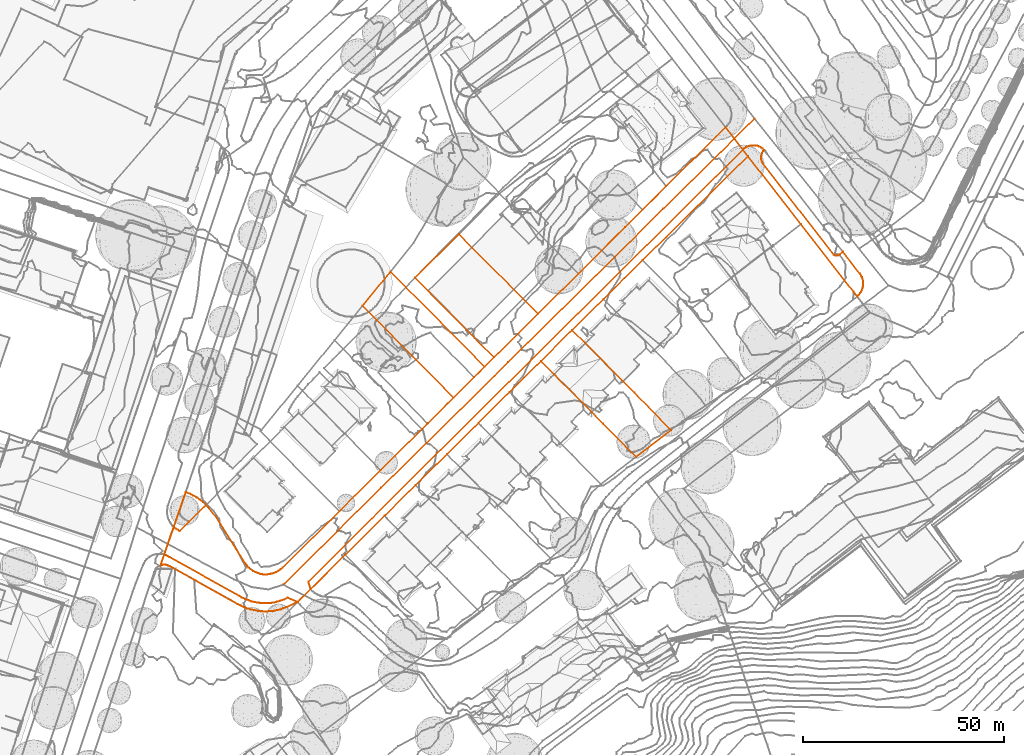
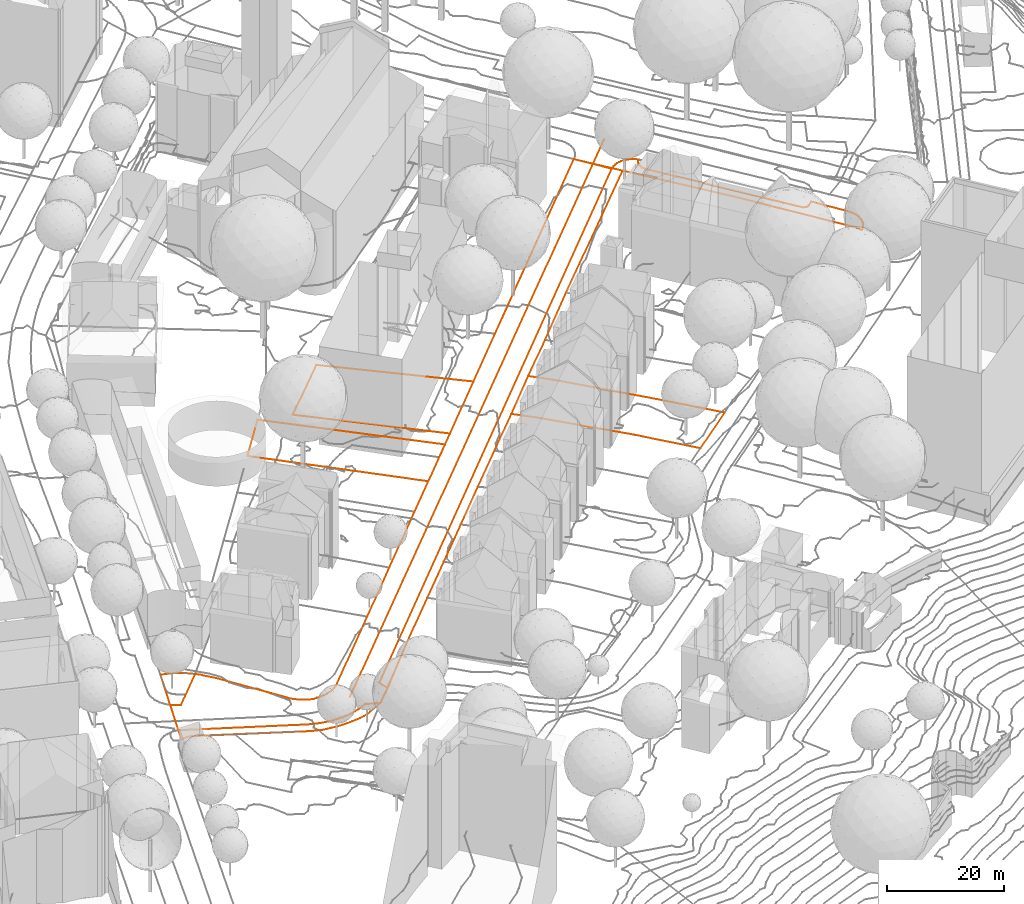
# Not in any storey, part 101 of 494: 7 proxies.
"""IFC2X3 model written with IfcOpenShell, lengths in metres."""

from ifc_helpers import new_model, entity, si_unit, frame, origin_with_axes, place, context, subcontext, project, element, save


model = new_model("IFC2X3")

# Units and contexts
model_context = context("Model", 3, precision=1e-05, world=origin_with_axes())
body_context = subcontext(model_context, "Body", "Model", "MODEL_VIEW")
ifc_project = project(units=[si_unit("AREAUNIT", "SQUARE_METRE"), si_unit("LENGTHUNIT", "METRE")], contexts=[model_context])

# Proxies
proxy_1_placement = place(None, frame((93.0437320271, 99.7587401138, 531.194), z_axis=(0.0, 0.0, 1.0), x_axis=(1.0, 0.0, 0.0)))
element("IfcBuildingElementProxy", 1, at=proxy_1_placement, Name="Road 52", ObjectType="NOTDEFINED", context=body_context, shape_type="GeometricCurveSet", body=[
    entity("IfcGeometricCurveSet", [entity("IfcPolyline", [entity("IfcCartesianPoint", [0.0, 0.0, 0.0]), entity("IfcCartesianPoint", [24.4419999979, 24.1649992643, 1.104]), entity("IfcCartesianPoint", [56.0439999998, 55.4119983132, 2.53]), entity("IfcCartesianPoint", [94.5870000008, 93.5209971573, 4.271]), entity("IfcCartesianPoint", [117.3289999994, 116.0069964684, 5.297])])]),
])
proxy_2_placement = place(None, frame((99.3697320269, 100.6137160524, 531.4787318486), z_axis=(0.0, 0.0, 1.0), x_axis=(1.0, 0.0, 0.0)))
element("IfcBuildingElementProxy", 2, at=proxy_2_placement, Name="Roads Outline 13", ObjectType="NOTDEFINED", context=body_context, shape_type="GeometricCurveSet", body=[
    entity("IfcGeometricCurveSet", [entity("IfcPolyline", [entity("IfcCartesianPoint", [0.0, 0.0, 0.0]), entity("IfcCartesianPoint", [108.0809999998, 107.4170000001, 4.6570757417]), entity("IfcCartesianPoint", [108.4329999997, 107.7180000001, 4.6397846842]), entity("IfcCartesianPoint", [108.8199999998, 107.973, 4.6427074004]), entity("IfcCartesianPoint", [109.2359999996, 108.1770000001, 4.67960529]), entity("IfcCartesianPoint", [109.6739999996, 108.327, 4.7157648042]), entity("IfcCartesianPoint", [110.1269999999, 108.422, 4.741091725]), entity("IfcCartesianPoint", [110.5889999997, 108.459, 4.7630005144]), entity("IfcCartesianPoint", [111.0999999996, 108.433, 4.7788742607]), entity("IfcCartesianPoint", [111.602, 108.338, 4.786806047]), entity("IfcCartesianPoint", [112.0859999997, 108.1740000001, 4.8015026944]), entity("IfcCartesianPoint", [112.5429999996, 107.9450000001, 4.8260475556]), entity("IfcCartesianPoint", [112.9649999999, 107.655, 4.8335563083]), entity("IfcCartesianPoint", [113.3419999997, 107.3100000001, 4.816792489]), entity("IfcCartesianPoint", [113.0689999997, 106.9710000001, 4.8299718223]), entity("IfcCartesianPoint", [112.855, 106.5919999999, 4.8374688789]), entity("IfcCartesianPoint", [112.7049999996, 106.183, 4.830174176]), entity("IfcCartesianPoint", [112.6229999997, 105.7560000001, 4.8264425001]), entity("IfcCartesianPoint", [112.6099999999, 105.3760000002, 4.8286098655]), entity("IfcCartesianPoint", [112.6499999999, 104.997, 4.8320408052]), entity("IfcCartesianPoint", [112.7449999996, 104.629, 4.8476018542]), entity("IfcCartesianPoint", [112.8909999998, 104.277, 4.8660261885]), entity("IfcCartesianPoint", [113.085, 103.95, 4.8776557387]), entity("IfcCartesianPoint", [130.679, 81.2560000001, 4.5503751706]), entity("IfcCartesianPoint", [130.8939999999, 81.1040000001, 4.5512587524]), entity("IfcCartesianPoint", [131.142, 81.014, 4.5520183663]), entity("IfcCartesianPoint", [131.4039999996, 80.9910000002, 4.5493327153]), entity("IfcCartesianPoint", [131.6439999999, 81.0330000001, 4.5453489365]), entity("IfcCartesianPoint", [131.8659999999, 81.1310000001, 4.5367992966]), entity("IfcCartesianPoint", [132.0579999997, 81.28, 4.5227718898]), entity("IfcCartesianPoint", [132.943, 82.0050000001, 4.4854799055]), entity("IfcCartesianPoint", [137.2059999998, 76.5, 4.2468710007]), entity("IfcCartesianPoint", [137.4789999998, 76.081, 4.2194894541]), entity("IfcCartesianPoint", [137.6999999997, 75.632, 4.1873046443]), entity("IfcCartesianPoint", [137.8639999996, 75.159, 4.1632237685]), entity("IfcCartesianPoint", [137.9689999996, 74.669, 4.1470024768]), entity("IfcCartesianPoint", [138.014, 74.1710000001, 4.1303006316]), entity("IfcCartesianPoint", [137.9939999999, 73.639, 4.1134329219]), entity("IfcCartesianPoint", [137.9049999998, 73.1140000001, 4.0972265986]), entity("IfcCartesianPoint", [137.7489999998, 72.605, 4.0706635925]), entity("IfcCartesianPoint", [137.5269999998, 72.1200000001, 4.0462752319]), entity("IfcCartesianPoint", [137.2449999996, 71.669, 4.0096095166]), entity("IfcCartesianPoint", [136.906, 71.2580000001, 3.9671049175]), entity("IfcCartesianPoint", [136.517, 70.8940000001, 4.0019778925]), entity("IfcCartesianPoint", [135.6379999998, 72.023, 4.2745707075]), entity("IfcCartesianPoint", [122.4889999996, 88.9030000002, 4.7805796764]), entity("IfcCartesianPoint", [109.3089999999, 105.8230000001, 4.7918427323]), entity("IfcCartesianPoint", [83.1359999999, 79.8970000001, 4.1487742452]), entity("IfcCartesianPoint", [73.3969999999, 70.254, 3.4828260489]), entity("IfcCartesianPoint", [65.6269999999, 62.561, 3.3148640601]), entity("IfcCartesianPoint", [57.8279999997, 54.8390000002, 2.7996823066]), entity("IfcCartesianPoint", [50.048, 47.1370000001, 2.5008952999]), entity("IfcCartesianPoint", [42.2679999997, 39.4240000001, 2.2788693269]), entity("IfcCartesianPoint", [34.4489999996, 31.682, 1.8705209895]), entity("IfcCartesianPoint", [26.659, 23.98, 1.4808663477]), entity("IfcCartesianPoint", [18.9149999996, 16.307, 1.2562248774]), entity("IfcCartesianPoint", [9.1199999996, 6.6040000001, 0.7822688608]), entity("IfcCartesianPoint", [0.5439999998, -1.9669999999, -0.1117618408]), entity("IfcCartesianPoint", [0.0, 0.0, 0.0])])]),
])
proxy_3_placement = place(None, frame((63.4837320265, 107.2827160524, 530.0463564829), z_axis=(0.0, 0.0, 1.0), x_axis=(1.0, 0.0, 0.0)))
element("IfcBuildingElementProxy", 3, at=proxy_3_placement, Name="Roads Outline 32", ObjectType="NOTDEFINED", context=body_context, shape_type="GeometricCurveSet", body=[
    entity("IfcGeometricCurveSet", [entity("IfcPolyline", [entity("IfcCartesianPoint", [0.0, 0.0, 0.0]), entity("IfcCartesianPoint", [2.3800000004, 6.882, 0.3069742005]), entity("IfcCartesianPoint", [2.838, 6.4990000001, 0.3328323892]), entity("IfcCartesianPoint", [3.3360000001, 6.1700000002, 0.3478767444]), entity("IfcCartesianPoint", [3.8680000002, 5.899, 0.3725917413]), entity("IfcCartesianPoint", [6.139, 8.142, 0.4313811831]), entity("IfcCartesianPoint", [10.4020000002, 12.3530000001, 0.6635411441]), entity("IfcCartesianPoint", [10.9420000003, 11.7920000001, 0.6903280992]), entity("IfcCartesianPoint", [12.8910000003, 9.402, 0.720618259]), entity("IfcCartesianPoint", [20.199, -2.1879999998, 1.1318759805]), entity("IfcCartesianPoint", [20.5960000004, -2.7290000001, 1.0707921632]), entity("IfcCartesianPoint", [21.051, -3.2239999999, 1.1512467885]), entity("IfcCartesianPoint", [21.5560000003, -3.666, 1.1122666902]), entity("IfcCartesianPoint", [22.108, -4.0489999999, 1.1619861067]), entity("IfcCartesianPoint", [22.6980000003, -4.3689999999, 1.1762413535]), entity("IfcCartesianPoint", [23.3200000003, -4.6229999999, 1.0889049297]), entity("IfcCartesianPoint", [23.966, -4.8059999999, 1.1165507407]), entity("IfcCartesianPoint", [24.628, -4.9179999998, 1.1828566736]), entity("IfcCartesianPoint", [25.2960000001, -4.949, 1.2167361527]), entity("IfcCartesianPoint", [25.9640000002, -4.906, 1.242556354]), entity("IfcCartesianPoint", [26.6230000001, -4.79, 1.2619961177]), entity("IfcCartesianPoint", [27.2650000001, -4.6029999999, 1.2782874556]), entity("IfcCartesianPoint", [27.8830000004, -4.3469999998, 1.3095847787]), entity("IfcCartesianPoint", [28.469, -4.024, 1.3208884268]), entity("IfcCartesianPoint", [29.0160000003, -3.639, 1.3365282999]), entity("IfcCartesianPoint", [29.5180000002, -3.1969999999, 1.3830831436]), entity("IfcCartesianPoint", [43.5870000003, 10.787, 1.9996179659]), entity("IfcCartesianPoint", [53.8670000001, 21.02, 2.4633008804]), entity("IfcCartesianPoint", [64.156, 31.243, 2.9580082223]), entity("IfcCartesianPoint", [65.5580000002, 32.639, 3.0226835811]), entity("IfcCartesianPoint", [65.6460000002, 32.727, 3.0244802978]), entity("IfcCartesianPoint", [72.0360000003, 39.085, 3.2307460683]), entity("IfcCartesianPoint", [77.1060000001, 44.1240000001, 3.4324013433]), entity("IfcCartesianPoint", [79.7350000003, 46.7380000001, 3.5908595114]), entity("IfcCartesianPoint", [82.085, 49.068, 3.6480994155]), entity("IfcCartesianPoint", [92.9950000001, 59.922, 4.1398039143]), entity("IfcCartesianPoint", [103.054, 69.925, 4.5802632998]), entity("IfcCartesianPoint", [114.7000000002, 81.504, 5.0934252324]), entity("IfcCartesianPoint", [114.7090000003, 81.513, 5.0936865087]), entity("IfcCartesianPoint", [119.017, 85.798, 5.3074246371]), entity("IfcCartesianPoint", [124.8840000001, 91.6340000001, 5.5663192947]), entity("IfcCartesianPoint", [139.665, 106.335, 6.2224545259]), entity("IfcCartesianPoint", [143.9670000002, 100.7480000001, 6.0894511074]), entity("IfcCartesianPoint", [35.8860000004, -6.669, 1.4323753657]), entity("IfcCartesianPoint", [36.4300000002, -8.6359999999, 1.3206135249]), entity("IfcCartesianPoint", [33.1370000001, -11.8149999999, 1.3048073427]), entity("IfcCartesianPoint", [30.7180000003, -10.7549999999, 1.256079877]), entity("IfcCartesianPoint", [29.8790000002, -11.1359999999, 1.2439409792]), entity("IfcCartesianPoint", [29.0180000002, -11.4609999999, 1.2452672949]), entity("IfcCartesianPoint", [28.1370000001, -11.73, 1.2207840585]), entity("IfcCartesianPoint", [27.2400000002, -11.9399999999, 1.1953168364]), entity("IfcCartesianPoint", [26.3250000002, -12.0549999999, 1.186454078]), entity("IfcCartesianPoint", [25.4040000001, -12.1040000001, 1.1684874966]), entity("IfcCartesianPoint", [24.4820000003, -12.085, 1.1510941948]), entity("IfcCartesianPoint", [23.5640000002, -12.0, 1.1208163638]), entity("IfcCartesianPoint", [22.6540000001, -11.8489999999, 1.0875371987]), entity("IfcCartesianPoint", [21.7910000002, -11.6399999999, 1.0500076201]), entity("IfcCartesianPoint", [20.9450000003, -11.371, 1.0150154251]), entity("IfcCartesianPoint", [20.1190000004, -11.044, 0.9707414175]), entity("IfcCartesianPoint", [19.3190000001, -10.6599999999, 0.9356594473]), entity("IfcCartesianPoint", [18.5470000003, -10.22, 0.8886405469]), entity("IfcCartesianPoint", [1.3250000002, -0.656, 0.0355756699]), entity("IfcCartesianPoint", [0.9100000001, -0.3859999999, 0.0137179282]), entity("IfcCartesianPoint", [0.466, -0.1669999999, 0.000617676]), entity("IfcCartesianPoint", [0.0, 0.0, 0.0])])]),
])
proxy_4_placement = place(None, frame((62.5557320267, 104.6007160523, 530.0229529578), z_axis=(0.0, 0.0, 1.0), x_axis=(1.0, 0.0, 0.0)))
element("IfcBuildingElementProxy", 4, at=proxy_4_placement, Name="Cadastre 87", ObjectType="NOTDEFINED", context=body_context, shape_type="GeometricCurveSet", body=[
    entity("IfcGeometricCurveSet", [entity("IfcPolyline", [entity("IfcCartesianPoint", [0.0, 0.0, 0.0]), entity("IfcCartesianPoint", [6.287, 18.172, 0.3944072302]), entity("IfcCartesianPoint", [7.2209999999, 17.8190000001, 0.4583319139]), entity("IfcCartesianPoint", [8.125, 17.3940000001, 0.5170971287]), entity("IfcCartesianPoint", [8.9930000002, 16.9000000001, 0.6001692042]), entity("IfcCartesianPoint", [9.8199999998, 16.3400000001, 0.6324156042]), entity("IfcCartesianPoint", [10.6000000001, 15.7170000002, 0.637786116]), entity("IfcCartesianPoint", [11.3300000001, 15.0350000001, 0.6869446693]), entity("IfcCartesianPoint", [11.8700000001, 14.4740000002, 0.7137316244]), entity("IfcCartesianPoint", [13.8190000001, 12.084, 0.7440217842]), entity("IfcCartesianPoint", [21.1269999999, 0.4940000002, 1.1552795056]), entity("IfcCartesianPoint", [21.5240000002, -0.047, 1.0941956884]), entity("IfcCartesianPoint", [21.9789999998, -0.5419999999, 1.1746503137]), entity("IfcCartesianPoint", [22.4840000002, -0.9839999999, 1.1356702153]), entity("IfcCartesianPoint", [23.0359999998, -1.3669999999, 1.1853896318]), entity("IfcCartesianPoint", [23.6260000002, -1.6869999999, 1.1996448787]), entity("IfcCartesianPoint", [24.2480000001, -1.9409999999, 1.1123084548]), entity("IfcCartesianPoint", [24.8939999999, -2.1239999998, 1.1399542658]), entity("IfcCartesianPoint", [25.5559999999, -2.2359999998, 1.2062601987]), entity("IfcCartesianPoint", [26.2239999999, -2.267, 1.2401396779]), entity("IfcCartesianPoint", [26.892, -2.2239999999, 1.2659598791]), entity("IfcCartesianPoint", [27.551, -2.108, 1.2853996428]), entity("IfcCartesianPoint", [28.193, -1.9209999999, 1.3016909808]), entity("IfcCartesianPoint", [28.8110000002, -1.6649999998, 1.3329883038]), entity("IfcCartesianPoint", [29.3969999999, -1.3419999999, 1.3442919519]), entity("IfcCartesianPoint", [29.9440000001, -0.9569999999, 1.3599318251]), entity("IfcCartesianPoint", [30.446, -0.5149999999, 1.4064866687]), entity("IfcCartesianPoint", [44.5150000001, 13.469, 2.023021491]), entity("IfcCartesianPoint", [54.7949999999, 23.702, 2.4867044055]), entity("IfcCartesianPoint", [65.0839999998, 33.925, 2.9814117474]), entity("IfcCartesianPoint", [72.9640000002, 41.767, 3.2541495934]), entity("IfcCartesianPoint", [80.6630000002, 49.4200000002, 3.6142630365]), entity("IfcCartesianPoint", [83.0129999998, 51.75, 3.6715029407]), entity("IfcCartesianPoint", [93.923, 62.6040000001, 4.1632074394]), entity("IfcCartesianPoint", [103.9819999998, 72.6070000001, 4.6036668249]), entity("IfcCartesianPoint", [140.5929999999, 109.017, 6.245858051]), entity("IfcCartesianPoint", [146.1230000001, 101.8360000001, 6.2476216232]), entity("IfcCartesianPoint", [119.9500000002, 75.9100000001, 5.604553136]), entity("IfcCartesianPoint", [110.2110000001, 66.267, 4.9386049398]), entity("IfcCartesianPoint", [102.4410000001, 58.574, 4.770642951]), entity("IfcCartesianPoint", [94.642, 50.8520000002, 4.2554611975]), entity("IfcCartesianPoint", [86.8620000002, 43.1500000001, 3.9566741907]), entity("IfcCartesianPoint", [79.0819999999, 35.4370000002, 3.7346482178]), entity("IfcCartesianPoint", [71.2629999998, 27.6950000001, 3.3262998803]), entity("IfcCartesianPoint", [63.4730000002, 19.993, 2.9366452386]), entity("IfcCartesianPoint", [55.7289999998, 12.3200000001, 2.7120037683]), entity("IfcCartesianPoint", [45.9339999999, 2.6170000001, 2.2380477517]), entity("IfcCartesianPoint", [34.2749999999, -9.0359999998, 1.3372083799]), entity("IfcCartesianPoint", [31.3650000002, -10.3769999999, 1.1908393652]), entity("IfcCartesianPoint", [30.5759999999, -10.6919999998, 1.1739759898]), entity("IfcCartesianPoint", [29.7680000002, -10.9539999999, 1.1792964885]), entity("IfcCartesianPoint", [28.9440000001, -11.1629999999, 1.2278941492]), entity("IfcCartesianPoint", [28.1090000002, -11.3169999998, 1.2668498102]), entity("IfcCartesianPoint", [27.2650000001, -11.4169999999, 1.2812875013]), entity("IfcCartesianPoint", [26.2629999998, -11.463, 1.2639175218]), entity("IfcCartesianPoint", [25.2600000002, -11.4319999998, 1.2305683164]), entity("IfcCartesianPoint", [24.2620000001, -11.3229999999, 1.1719358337]), entity("IfcCartesianPoint", [23.2760000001, -11.1379999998, 1.1250564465]), entity("IfcCartesianPoint", [22.4339999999, -10.95, 1.0771060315]), entity("IfcCartesianPoint", [21.6069999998, -10.7069999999, 1.0121278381]), entity("IfcCartesianPoint", [20.798, -10.4099999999, 0.9920155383]), entity("IfcCartesianPoint", [20.0100000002, -10.0599999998, 0.928173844]), entity("IfcCartesianPoint", [19.247, -9.6579999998, 0.8957857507]), entity("IfcCartesianPoint", [2.23, -0.179, 0.0949695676]), entity("IfcCartesianPoint", [1.8850000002, -0.0049999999, 0.0876779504]), entity("IfcCartesianPoint", [1.5180000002, 0.1130000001, 0.079895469]), entity("IfcCartesianPoint", [1.1359999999, 0.1740000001, 0.0602418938]), entity("IfcCartesianPoint", [0.75, 0.175, 0.04009401]), entity("IfcCartesianPoint", [0.3680000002, 0.1170000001, 0.0195433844]), entity("IfcCartesianPoint", [0.0, 0.0, 0.0])])]),
])
proxy_5_placement = place(None, frame((112.8547320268, 169.1787160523, 532.6823390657), z_axis=(0.0, 0.0, 1.0), x_axis=(1.0, 0.0, 0.0)))
element("IfcBuildingElementProxy", 5, at=proxy_5_placement, Name="Cadastre 96", ObjectType="NOTDEFINED", context=body_context, shape_type="GeometricCurveSet", body=[
    entity("IfcGeometricCurveSet", [entity("IfcPolyline", [entity("IfcCartesianPoint", [0.0, 0.0, 0.0]), entity("IfcCartesianPoint", [6.9499999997, 8.5420000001, -0.0389280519]), entity("IfcCartesianPoint", [30.3640000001, -15.1579999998, 0.9548769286]), entity("IfcCartesianPoint", [22.665, -22.811, 0.5947634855]), entity("IfcCartesianPoint", [0.0, 0.0, 0.0])])]),
])
proxy_6_placement = place(None, frame((125.8837320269, 176.1617160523, 532.5147841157), z_axis=(0.0, 0.0, 1.0), x_axis=(1.0, 0.0, 0.0)))
element("IfcBuildingElementProxy", 6, at=proxy_6_placement, Name="Cadastre 108", ObjectType="NOTDEFINED", context=body_context, shape_type="GeometricCurveSet", body=[
    entity("IfcGeometricCurveSet", [entity("IfcPolyline", [entity("IfcCartesianPoint", [0.0, 0.0, 0.0]), entity("IfcCartesianPoint", [10.9189999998, 10.8530000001, 0.0244201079]), entity("IfcCartesianPoint", [30.5949999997, -8.9569999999, 1.6713762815]), entity("IfcCartesianPoint", [19.6849999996, -19.811, 1.1796717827]), entity("IfcCartesianPoint", [0.0, 0.0, 0.0])])]),
])
proxy_7_placement = place(None, frame((157.1977320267, 155.4527160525, 534.2784141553), z_axis=(0.0, 0.0, 1.0), x_axis=(1.0, 0.0, 0.0)))
element("IfcBuildingElementProxy", 7, at=proxy_7_placement, Name="Cadastre 228", ObjectType="NOTDEFINED", context=body_context, shape_type="GeometricCurveSet", body=[
    entity("IfcGeometricCurveSet", [entity("IfcPolyline", [entity("IfcCartesianPoint", [0.0, 0.0, 0.0]), entity("IfcCartesianPoint", [7.7990000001, 7.7219999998, 0.5151817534]), entity("IfcCartesianPoint", [10.9989999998, 4.5019999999, 0.5639643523]), entity("IfcCartesianPoint", [23.2760000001, -7.838, -0.0860171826]), entity("IfcCartesianPoint", [32.324, -17.1980000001, -0.5865819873]), entity("IfcCartesianPoint", [23.6940000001, -23.8500000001, -1.0194051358]), entity("IfcCartesianPoint", [15.5060000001, -15.5600000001, -0.3739859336]), entity("IfcCartesianPoint", [3.2319999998, -3.2440000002, 0.0746373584]), entity("IfcCartesianPoint", [0.0, 0.0, 0.0])])]),
])

save(model, "model.ifc")
